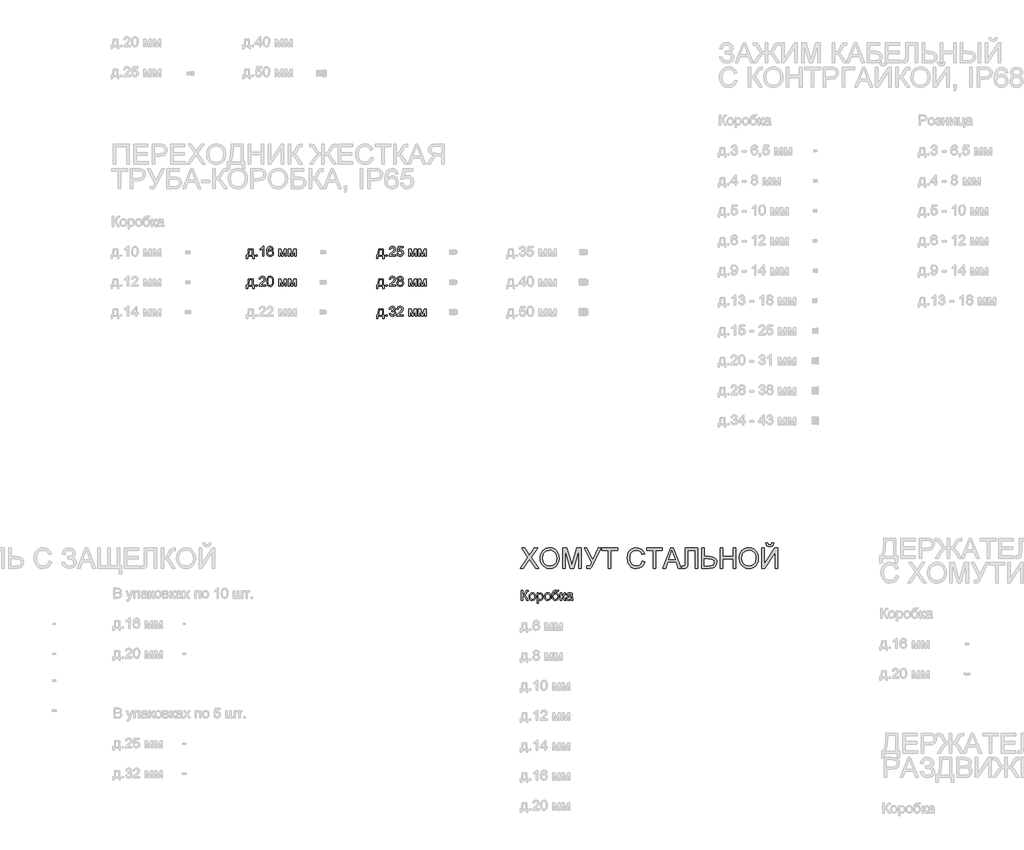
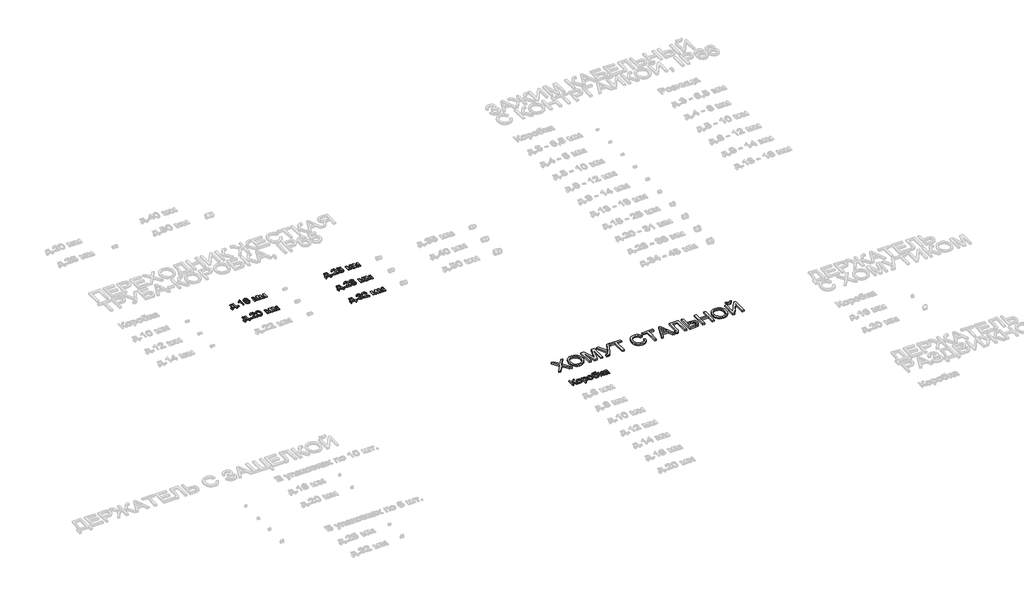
# One storey, part 55 of 98: 7 proxies.
"""IFC4 building model written with IfcOpenShell, lengths in millimetres."""

from ifc_helpers import new_model, si_unit, origin, origin_with_axes, place, context, project, spatial, polyline, outline, extrude, element, save

model = new_model("IFC4")

# Units and contexts
model_context = context("Model", 3, world=origin())
ifc_project = project(units=[si_unit("LENGTHUNIT", "METRE", prefix="MILLI")], contexts=[model_context])

# Site, building, storey
site = spatial("IfcSite", under=ifc_project)
building = spatial("IfcBuilding", under=site)
storey = spatial("IfcBuildingStorey", under=building, Name="Этаж 01", Elevation=0.0)

# Proxies
placement = place(None, origin())
element("IfcBuildingElementProxy", 1, Name="100", ObjectType="100", at=placement, inside=storey, context=model_context, shape_type="SweptSolid", body=[
    extrude(outline(polyline([(9711.8671726, -28463.7647458), (9758.956068, -28463.7647458), (9758.956068, -28524.9803098), (9768.3738471, -28524.9803098), (9768.3738471, -28557.9425366), (9755.8168083, -28557.9425366), (9755.8168083, -28537.5373486), (9704.0190234, -28537.5373486), (9704.0190234, -28557.9425366), (9691.4619846, -28557.9425366), (9691.4619846, -28524.9803098), (9699.3101339, -28524.9803098), (9709.0099558, -28501.031192), (9711.8671726, -28463.7647458)]), holes=[polyline([(9722.8545816, -28476.3217846), (9719.9115256, -28504.9307411), (9713.4368025, -28524.9803098), (9746.3990293, -28524.9803098), (9746.3990293, -28476.3217846), (9722.8545816, -28476.3217846)])]), origin_with_axes(), (0.0, 0.0, 1.0), 10.0),
    extrude(outline(polyline([(9785.6397754, -28537.5373486), (9785.6397754, -28524.9803098), (9798.1968142, -28524.9803098), (9798.1968142, -28537.5373486), (9785.6397754, -28537.5373486)])), origin_with_axes(), (0.0, 0.0, 1.0), 10.0),
    extrude(outline(polyline([(9865.6908976, -28537.5373486), (9853.1338588, -28537.5373486), (9853.1338588, -28459.25206), (9841.2390076, -28467.7256087), (9828.0197813, -28474.0654417), (9828.0197813, -28462.195116), (9846.4261437, -28450.4474176), (9857.5974937, -28437.0810385), (9865.6908976, -28437.0810385), (9865.6908976, -28537.5373486)])), origin_with_axes(), (0.0, 0.0, 1.0), 10.0),
    extrude(outline(polyline([(9959.8686883, -28463.7647458), (9947.3116496, -28465.3343757), (9942.5537091, -28454.8620016), (9929.9721448, -28449.6380772), (9918.6413794, -28452.6792351), (9910.0697289, -28464.0958396), (9906.5012736, -28486.4753277), (9917.5745216, -28476.4566747), (9931.29652, -28473.1825249), (9942.8970656, -28475.4204737), (9952.6336758, -28482.1343201), (9959.2371576, -28492.3920964), (9961.4383182, -28505.2618349), (9957.2935144, -28522.5890769), (9945.8891725, -28534.85181), (9929.4325846, -28539.1069785), (9915.1863543, -28536.2865498), (9903.8402605, -28527.8252639), (9896.4182412, -28512.8892549), (9893.9442348, -28490.644657), (9896.691087, -28465.6348127), (9904.9316437, -28448.5344312), (9916.1827014, -28439.9443867), (9930.7569598, -28437.0810385), (9941.7750255, -28438.8530034), (9950.598062, -28444.1688982), (9956.7784796, -28452.61179), (9959.8686883, -28463.7647458)]), holes=[polyline([(9906.5012736, -28505.0656312), (9909.4075413, -28515.9426755), (9917.1330632, -28523.8398757), (9928.4515659, -28526.5499397), (9936.7381079, -28525.1458567), (9943.2526849, -28520.9336079), (9947.4741308, -28514.311732), (9948.8812794, -28505.6787678), (9947.4925249, -28497.3922259), (9943.3262613, -28491.0738526), (9936.7013197, -28487.0731359), (9927.9365311, -28485.7395637), (9912.7430047, -28491.0738526), (9908.0617064, -28497.2389417), (9906.5012736, -28505.0656312)])]), origin_with_axes(), (0.0, 0.0, 1.0), 10.0),
    extrude(outline(polyline([(10014.8057329, -28463.7647458), (10036.4126688, -28463.7647458), (10053.0654604, -28522.8220688), (10071.0181018, -28463.7647458), (10091.7175954, -28463.7647458), (10091.7175954, -28537.5373486), (10079.1605566, -28537.5373486), (10079.1605566, -28478.1366691), (10061.1098134, -28537.5373486), (10044.6287, -28537.5373486), (10027.3627717, -28475.291715), (10027.3627717, -28537.5373486), (10014.8057329, -28537.5373486), (10014.8057329, -28463.7647458)])), origin_with_axes(), (0.0, 0.0, 1.0), 10.0),
    extrude(outline(polyline([(10110.5531535, -28463.7647458), (10132.1600894, -28463.7647458), (10148.812881, -28522.8220688), (10166.7655224, -28463.7647458), (10187.465016, -28463.7647458), (10187.465016, -28537.5373486), (10174.9079772, -28537.5373486), (10174.9079772, -28478.1366691), (10156.857234, -28537.5373486), (10140.3761206, -28537.5373486), (10123.1101923, -28475.291715), (10123.1101923, -28537.5373486), (10110.5531535, -28537.5373486), (10110.5531535, -28463.7647458)])), origin_with_axes(), (0.0, 0.0, 1.0), 10.0),
])
element("IfcBuildingElementProxy", 2, Name="100", ObjectType="100", at=placement, inside=storey, context=model_context, shape_type="SweptSolid", body=[
    extrude(outline(polyline([(9711.8671726, -28763.7647458), (9758.956068, -28763.7647458), (9758.956068, -28824.9803098), (9768.3738471, -28824.9803098), (9768.3738471, -28857.9425366), (9755.8168083, -28857.9425366), (9755.8168083, -28837.5373486), (9704.0190234, -28837.5373486), (9704.0190234, -28857.9425366), (9691.4619846, -28857.9425366), (9691.4619846, -28824.9803098), (9699.3101339, -28824.9803098), (9709.0099558, -28801.031192), (9711.8671726, -28763.7647458)]), holes=[polyline([(9722.8545816, -28776.3217846), (9719.9115256, -28804.9307411), (9713.4368025, -28824.9803098), (9746.3990293, -28824.9803098), (9746.3990293, -28776.3217846), (9722.8545816, -28776.3217846)])]), origin_with_axes(), (0.0, 0.0, 1.0), 10.0),
    extrude(outline(polyline([(9785.6397754, -28837.5373486), (9785.6397754, -28824.9803098), (9798.1968142, -28824.9803098), (9798.1968142, -28837.5373486), (9785.6397754, -28837.5373486)])), origin_with_axes(), (0.0, 0.0, 1.0), 10.0),
    extrude(outline(polyline([(9882.9568259, -28824.9803098), (9882.9568259, -28837.5373486), (9817.0323723, -28837.5373486), (9818.381273, -28828.879859), (9826.008693, -28815.550268), (9841.7295169, -28800.9944038), (9863.4100292, -28780.074181), (9868.8301572, -28765.8494105), (9863.7165975, -28754.334704), (9850.3624811, -28749.6380772), (9836.4442789, -28754.2243394), (9831.1590409, -28766.9040055), (9818.6020022, -28765.3343757), (9821.6462257, -28753.1881385), (9828.2282477, -28744.316051), (9838.0047117, -28738.8897916), (9850.6322612, -28737.0810385), (9863.3517812, -28739.0921267), (9873.1098511, -28745.1253914), (9879.3178598, -28754.1385003), (9881.387196, -28765.089121), (9879.1553786, -28776.9962349), (9871.736425, -28789.308019), (9853.7469954, -28806.5126337), (9839.3014958, -28818.5914259), (9833.636113, -28824.9803098), (9882.9568259, -28824.9803098)])), origin_with_axes(), (0.0, 0.0, 1.0), 10.0),
    extrude(outline(polyline([(9895.5138646, -28788.1185339), (9899.2049473, -28759.2152718), (9910.1678308, -28742.5502175), (9928.4760914, -28737.0810385), (9943.1423203, -28740.3184), (9953.2713379, -28749.65034), (9959.1574498, -28764.5127726), (9961.4383182, -28788.1185339), (9957.7840237, -28816.8991687), (9946.8579284, -28833.6010113), (9938.6265688, -28837.7304867), (9928.4760914, -28839.1069785), (9915.4285433, -28836.7157455), (9905.5202549, -28829.5420466), (9898.0154622, -28812.5520298), (9895.5138646, -28788.1185339)]), holes=[polyline([(9908.0709034, -28788.0940085), (9909.5424314, -28807.8462059), (9913.9570153, -28819.2781389), (9920.5298403, -28824.7319895), (9928.4760914, -28826.5499397), (9936.4223425, -28824.7258581), (9942.9951675, -28819.2536135), (9947.4097514, -28807.8155491), (9948.8812794, -28788.0940085), (9947.4588024, -28768.7863351), (9943.1913712, -28757.2654973), (9936.630809, -28751.5449322), (9928.3289386, -28749.6380772), (9920.4685266, -28751.3180717), (9914.1532191, -28756.358055), (9909.5914823, -28768.5962627), (9908.0709034, -28788.0940085)])]), origin_with_axes(), (0.0, 0.0, 1.0), 10.0),
    extrude(outline(polyline([(10014.8057329, -28763.7647458), (10036.4126688, -28763.7647458), (10053.0654604, -28822.8220688), (10071.0181018, -28763.7647458), (10091.7175954, -28763.7647458), (10091.7175954, -28837.5373486), (10079.1605566, -28837.5373486), (10079.1605566, -28778.1366691), (10061.1098134, -28837.5373486), (10044.6287, -28837.5373486), (10027.3627717, -28775.291715), (10027.3627717, -28837.5373486), (10014.8057329, -28837.5373486), (10014.8057329, -28763.7647458)])), origin_with_axes(), (0.0, 0.0, 1.0), 10.0),
    extrude(outline(polyline([(10110.5531535, -28763.7647458), (10132.1600894, -28763.7647458), (10148.812881, -28822.8220688), (10166.7655224, -28763.7647458), (10187.465016, -28763.7647458), (10187.465016, -28837.5373486), (10174.9079772, -28837.5373486), (10174.9079772, -28778.1366691), (10156.857234, -28837.5373486), (10140.3761206, -28837.5373486), (10123.1101923, -28775.291715), (10123.1101923, -28837.5373486), (10110.5531535, -28837.5373486), (10110.5531535, -28763.7647458)])), origin_with_axes(), (0.0, 0.0, 1.0), 10.0),
])
element("IfcBuildingElementProxy", 3, Name="100", ObjectType="100", at=placement, inside=storey, context=model_context, shape_type="SweptSolid", body=[
    extrude(outline(polyline([(11013.3013981, -28463.7647458), (11060.3902935, -28463.7647458), (11060.3902935, -28524.9803098), (11069.8080725, -28524.9803098), (11069.8080725, -28557.9425366), (11057.2510338, -28557.9425366), (11057.2510338, -28537.5373486), (11005.4532489, -28537.5373486), (11005.4532489, -28557.9425366), (10992.8962101, -28557.9425366), (10992.8962101, -28524.9803098), (11000.7443593, -28524.9803098), (11010.4441813, -28501.031192), (11013.3013981, -28463.7647458)]), holes=[polyline([(11024.288807, -28476.3217846), (11021.345751, -28504.9307411), (11014.8710279, -28524.9803098), (11047.8332547, -28524.9803098), (11047.8332547, -28476.3217846), (11024.288807, -28476.3217846)])]), origin_with_axes(), (0.0, 0.0, 1.0), 10.0),
    extrude(outline(polyline([(11087.0740008, -28537.5373486), (11087.0740008, -28524.9803098), (11099.6310396, -28524.9803098), (11099.6310396, -28537.5373486), (11087.0740008, -28537.5373486)])), origin_with_axes(), (0.0, 0.0, 1.0), 10.0),
    extrude(outline(polyline([(11184.3910513, -28524.9803098), (11184.3910513, -28537.5373486), (11118.4665978, -28537.5373486), (11119.8154984, -28528.879859), (11127.4429185, -28515.550268), (11143.1637424, -28500.9944038), (11164.8442546, -28480.074181), (11170.2643827, -28465.8494105), (11165.150823, -28454.334704), (11151.7967065, -28449.6380772), (11137.8785044, -28454.2243394), (11132.5932664, -28466.9040055), (11120.0362276, -28465.3343757), (11123.0804511, -28453.1881385), (11129.6624732, -28444.316051), (11139.4389372, -28438.8897916), (11152.0664867, -28437.0810385), (11164.7860066, -28439.0921267), (11174.5440766, -28445.1253914), (11180.7520852, -28454.1385003), (11182.8214215, -28465.089121), (11180.589604, -28476.9962349), (11173.1706505, -28489.308019), (11155.1812209, -28506.5126337), (11140.7357212, -28518.5914259), (11135.0703385, -28524.9803098), (11184.3910513, -28524.9803098)])), origin_with_axes(), (0.0, 0.0, 1.0), 10.0),
    extrude(outline(polyline([(11196.9480901, -28510.8536412), (11209.5051288, -28509.2840114), (11215.8326992, -28522.2211949), (11228.9538237, -28526.5499397), (11237.9546698, -28525.0446892), (11244.699173, -28520.5289377), (11248.9114219, -28513.5238514), (11250.3155048, -28504.5505964), (11245.0547923, -28489.6391128), (11238.4482448, -28485.5372286), (11229.1500274, -28484.1699338), (11218.1258303, -28486.3527004), (11211.0747587, -28492.0180831), (11198.5177199, -28490.4484532), (11209.5051288, -28438.6506683), (11258.1636541, -28438.6506683), (11258.1636541, -28451.2077071), (11219.6586719, -28451.2077071), (11214.2875948, -28478.8724331), (11223.2577841, -28473.4277796), (11232.6571691, -28471.6128951), (11244.389539, -28473.8631066), (11254.1292149, -28480.6137412), (11260.6867114, -28490.9021744), (11262.8725436, -28503.7657815), (11260.9043749, -28516.3228202), (11254.9998689, -28527.0649745), (11243.6936289, -28536.0964775), (11228.9047727, -28539.1069785), (11216.5715288, -28537.1725323), (11206.7460139, -28531.3691938), (11200.0107077, -28522.3714134), (11196.9480901, -28510.8536412)])), origin_with_axes(), (0.0, 0.0, 1.0), 10.0),
    extrude(outline(polyline([(11316.2399584, -28463.7647458), (11337.8468942, -28463.7647458), (11354.4996859, -28522.8220688), (11372.4523272, -28463.7647458), (11393.1518208, -28463.7647458), (11393.1518208, -28537.5373486), (11380.5947821, -28537.5373486), (11380.5947821, -28478.1366691), (11362.5440388, -28537.5373486), (11346.0629255, -28537.5373486), (11328.7969971, -28475.291715), (11328.7969971, -28537.5373486), (11316.2399584, -28537.5373486), (11316.2399584, -28463.7647458)])), origin_with_axes(), (0.0, 0.0, 1.0), 10.0),
    extrude(outline(polyline([(11411.987379, -28463.7647458), (11433.5943148, -28463.7647458), (11450.2471065, -28522.8220688), (11468.1997479, -28463.7647458), (11488.8992414, -28463.7647458), (11488.8992414, -28537.5373486), (11476.3422027, -28537.5373486), (11476.3422027, -28478.1366691), (11458.2914594, -28537.5373486), (11441.8103461, -28537.5373486), (11424.5444178, -28475.291715), (11424.5444178, -28537.5373486), (11411.987379, -28537.5373486), (11411.987379, -28463.7647458)])), origin_with_axes(), (0.0, 0.0, 1.0), 10.0),
])
element("IfcBuildingElementProxy", 4, Name="100", ObjectType="100", at=placement, inside=storey, context=model_context, shape_type="SweptSolid", body=[
    extrude(outline(polyline([(11013.3013981, -28763.7647458), (11060.3902935, -28763.7647458), (11060.3902935, -28824.9803098), (11069.8080725, -28824.9803098), (11069.8080725, -28857.9425366), (11057.2510338, -28857.9425366), (11057.2510338, -28837.5373486), (11005.4532489, -28837.5373486), (11005.4532489, -28857.9425366), (10992.8962101, -28857.9425366), (10992.8962101, -28824.9803098), (11000.7443593, -28824.9803098), (11010.4441813, -28801.031192), (11013.3013981, -28763.7647458)]), holes=[polyline([(11024.288807, -28776.3217846), (11021.345751, -28804.9307411), (11014.8710279, -28824.9803098), (11047.8332547, -28824.9803098), (11047.8332547, -28776.3217846), (11024.288807, -28776.3217846)])]), origin_with_axes(), (0.0, 0.0, 1.0), 10.0),
    extrude(outline(polyline([(11087.0740008, -28837.5373486), (11087.0740008, -28824.9803098), (11099.6310396, -28824.9803098), (11099.6310396, -28837.5373486), (11087.0740008, -28837.5373486)])), origin_with_axes(), (0.0, 0.0, 1.0), 10.0),
    extrude(outline(polyline([(11184.3910513, -28824.9803098), (11184.3910513, -28837.5373486), (11118.4665978, -28837.5373486), (11119.8154984, -28828.879859), (11127.4429185, -28815.550268), (11143.1637424, -28800.9944038), (11164.8442546, -28780.074181), (11170.2643827, -28765.8494105), (11165.150823, -28754.334704), (11151.7967065, -28749.6380772), (11137.8785044, -28754.2243394), (11132.5932664, -28766.9040055), (11120.0362276, -28765.3343757), (11123.0804511, -28753.1881385), (11129.6624732, -28744.316051), (11139.4389372, -28738.8897916), (11152.0664867, -28737.0810385), (11164.7860066, -28739.0921267), (11174.5440766, -28745.1253914), (11180.7520852, -28754.1385003), (11182.8214215, -28765.089121), (11180.589604, -28776.9962349), (11173.1706505, -28789.308019), (11155.1812209, -28806.5126337), (11140.7357212, -28818.5914259), (11135.0703385, -28824.9803098), (11184.3910513, -28824.9803098)])), origin_with_axes(), (0.0, 0.0, 1.0), 10.0),
    extrude(outline(polyline([(11215.244088, -28782.2078965), (11203.8029579, -28774.4087982), (11200.0873498, -28762.2686924), (11202.1107007, -28752.4523745), (11208.1807537, -28744.3405765), (11217.6169268, -28738.895923), (11229.7386386, -28737.0810385), (11241.9339267, -28738.9388425), (11251.4927272, -28744.5122548), (11257.6731447, -28752.7528115), (11259.7332839, -28762.6120489), (11256.0667267, -28774.4455864), (11244.9444277, -28782.2078965), (11258.2985441, -28792.0548713), (11262.8725436, -28808.3029927), (11260.603938, -28820.3082085), (11253.7981211, -28830.2287596), (11243.2889587, -28836.8874238), (11229.9103168, -28839.1069785), (11216.5316749, -28836.8782267), (11206.0225126, -28830.1919714), (11199.2166957, -28820.1763841), (11196.9480901, -28807.9596362), (11201.7060305, -28791.33137), (11215.244088, -28782.2078965)]), holes=[polyline([(11209.5051288, -28807.5181778), (11211.6020562, -28816.9727451), (11219.0210098, -28824.0483421), (11230.0084187, -28826.5499397), (11238.5555437, -28825.2347616), (11244.9689532, -28821.2892272), (11250.3155048, -28807.9105853), (11244.7972749, -28794.274426), (11238.2367127, -28790.227724), (11229.5914858, -28788.8788234), (11221.1639224, -28790.2093299), (11214.8148923, -28794.2008496), (11209.5051288, -28807.5181778)]), polyline([(11212.6443885, -28762.6365744), (11217.0957607, -28772.4958119), (11230.0574696, -28776.3217846), (11242.7616612, -28772.5203373), (11247.1762451, -28763.2006601), (11242.6145084, -28753.5498891), (11229.9103168, -28749.6380772), (11217.1693371, -28753.46405), (11212.6443885, -28762.6365744)])]), origin_with_axes(), (0.0, 0.0, 1.0), 10.0),
    extrude(outline(polyline([(11316.2399584, -28763.7647458), (11337.8468942, -28763.7647458), (11354.4996859, -28822.8220688), (11372.4523272, -28763.7647458), (11393.1518208, -28763.7647458), (11393.1518208, -28837.5373486), (11380.5947821, -28837.5373486), (11380.5947821, -28778.1366691), (11362.5440388, -28837.5373486), (11346.0629255, -28837.5373486), (11328.7969971, -28775.291715), (11328.7969971, -28837.5373486), (11316.2399584, -28837.5373486), (11316.2399584, -28763.7647458)])), origin_with_axes(), (0.0, 0.0, 1.0), 10.0),
    extrude(outline(polyline([(11411.987379, -28763.7647458), (11433.5943148, -28763.7647458), (11450.2471065, -28822.8220688), (11468.1997479, -28763.7647458), (11488.8992414, -28763.7647458), (11488.8992414, -28837.5373486), (11476.3422027, -28837.5373486), (11476.3422027, -28778.1366691), (11458.2914594, -28837.5373486), (11441.8103461, -28837.5373486), (11424.5444178, -28775.291715), (11424.5444178, -28837.5373486), (11411.987379, -28837.5373486), (11411.987379, -28763.7647458)])), origin_with_axes(), (0.0, 0.0, 1.0), 10.0),
])
element("IfcBuildingElementProxy", 5, Name="100", ObjectType="100", at=placement, inside=storey, context=model_context, shape_type="SweptSolid", body=[
    extrude(outline(polyline([(11013.3013981, -29063.7647458), (11060.3902935, -29063.7647458), (11060.3902935, -29124.9803098), (11069.8080725, -29124.9803098), (11069.8080725, -29157.9425366), (11057.2510338, -29157.9425366), (11057.2510338, -29137.5373486), (11005.4532489, -29137.5373486), (11005.4532489, -29157.9425366), (10992.8962101, -29157.9425366), (10992.8962101, -29124.9803098), (11000.7443593, -29124.9803098), (11010.4441813, -29101.031192), (11013.3013981, -29063.7647458)]), holes=[polyline([(11024.288807, -29076.3217846), (11021.345751, -29104.9307411), (11014.8710279, -29124.9803098), (11047.8332547, -29124.9803098), (11047.8332547, -29076.3217846), (11024.288807, -29076.3217846)])]), origin_with_axes(), (0.0, 0.0, 1.0), 10.0),
    extrude(outline(polyline([(11087.0740008, -29137.5373486), (11087.0740008, -29124.9803098), (11099.6310396, -29124.9803098), (11099.6310396, -29137.5373486), (11087.0740008, -29137.5373486)])), origin_with_axes(), (0.0, 0.0, 1.0), 10.0),
    extrude(outline(polyline([(11120.0362276, -29110.8536412), (11132.5932664, -29109.2840114), (11139.5217106, -29122.5032377), (11152.4834196, -29126.5499397), (11161.0918583, -29125.1581195), (11167.7382597, -29120.9826588), (11173.4036424, -29107.1993467), (11167.7873106, -29094.2131123), (11153.5134892, -29089.0750271), (11144.7088468, -29090.4484532), (11146.1067983, -29077.8914145), (11148.1178866, -29078.0385673), (11162.3671825, -29074.4333237), (11167.1128603, -29069.8593242), (11168.6947528, -29063.3478129), (11164.1084906, -29053.5253636), (11152.2872159, -29049.6380772), (11140.3187883, -29053.5621518), (11134.1628962, -29065.3343757), (11121.6058575, -29063.7647458), (11125.3030715, -29052.4891627), (11131.8820279, -29044.0707964), (11140.882874, -29038.8284779), (11151.8457575, -29037.0810385), (11166.9902329, -29040.5268665), (11177.5852344, -29049.9446456), (11181.2517916, -29062.6120489), (11177.7691754, -29074.188069), (11167.4684795, -29082.5022021), (11181.1536897, -29091.0861154), (11185.9606812, -29107.4200759), (11183.5571854, -29119.6582836), (11176.3466983, -29129.8854031), (11165.4635227, -29136.8015846), (11152.0419612, -29139.1069785), (11139.9018554, -29137.1388098), (11130.0180924, -29131.2343038), (11123.1448305, -29122.2028008), (11120.0362276, -29110.8536412)])), origin_with_axes(), (0.0, 0.0, 1.0), 10.0),
    extrude(outline(polyline([(11261.3029138, -29124.9803098), (11261.3029138, -29137.5373486), (11195.3784602, -29137.5373486), (11196.7273609, -29128.879859), (11204.3547809, -29115.550268), (11220.0756048, -29100.9944038), (11241.7561171, -29080.074181), (11247.1762451, -29065.8494105), (11242.0626854, -29054.334704), (11228.708569, -29049.6380772), (11214.7903668, -29054.2243394), (11209.5051288, -29066.9040055), (11196.9480901, -29065.3343757), (11199.9923136, -29053.1881385), (11206.5743356, -29044.316051), (11216.3507996, -29038.8897916), (11228.9783491, -29037.0810385), (11241.6978691, -29039.0921267), (11251.455939, -29045.1253914), (11257.6639477, -29054.1385003), (11259.7332839, -29065.089121), (11257.5014665, -29076.9962349), (11250.0825129, -29089.308019), (11232.0930833, -29106.5126337), (11217.6475837, -29118.5914259), (11211.9822009, -29124.9803098), (11261.3029138, -29124.9803098)])), origin_with_axes(), (0.0, 0.0, 1.0), 10.0),
    extrude(outline(polyline([(11316.2399584, -29063.7647458), (11337.8468942, -29063.7647458), (11354.4996859, -29122.8220688), (11372.4523272, -29063.7647458), (11393.1518208, -29063.7647458), (11393.1518208, -29137.5373486), (11380.5947821, -29137.5373486), (11380.5947821, -29078.1366691), (11362.5440388, -29137.5373486), (11346.0629255, -29137.5373486), (11328.7969971, -29075.291715), (11328.7969971, -29137.5373486), (11316.2399584, -29137.5373486), (11316.2399584, -29063.7647458)])), origin_with_axes(), (0.0, 0.0, 1.0), 10.0),
    extrude(outline(polyline([(11411.987379, -29063.7647458), (11433.5943148, -29063.7647458), (11450.2471065, -29122.8220688), (11468.1997479, -29063.7647458), (11488.8992414, -29063.7647458), (11488.8992414, -29137.5373486), (11476.3422027, -29137.5373486), (11476.3422027, -29078.1366691), (11458.2914594, -29137.5373486), (11441.8103461, -29137.5373486), (11424.5444178, -29075.291715), (11424.5444178, -29137.5373486), (11411.987379, -29137.5373486), (11411.987379, -29063.7647458)])), origin_with_axes(), (0.0, 0.0, 1.0), 10.0),
])
element("IfcBuildingElementProxy", 6, Name="100", ObjectType="100", at=placement, inside=storey, context=model_context, shape_type="SweptSolid", body=[
    extrude(outline(polyline([(12441.6215896, -31881.0306742), (12454.1786284, -31881.0306742), (12454.1786284, -31924.9803098), (12468.2194579, -31921.6571092), (12478.0173817, -31904.844902), (12484.9458259, -31890.8040725), (12492.7939751, -31883.8511028), (12504.014376, -31881.0306742), (12512.2549327, -31881.177827), (12512.2549327, -31893.7348657), (12509.483555, -31893.6612893), (12506.7121773, -31893.5877129), (12496.9019907, -31896.6043453), (12489.446249, -31909.529266), (12480.5557674, -31925.2746154), (12471.8860151, -31930.4740143), (12481.5797057, -31936.1516598), (12491.1385062, -31947.9851973), (12512.2549327, -31981.4869843), (12497.6868057, -31981.4869843), (12479.8322662, -31953.1845961), (12467.2629647, -31938.4080027), (12454.1786284, -31934.3980889), (12454.1786284, -31981.4869843), (12441.6215896, -31981.4869843), (12441.6215896, -31881.0306742)])), origin_with_axes(), (0.0, 0.0, 1.0), 10.0),
    extrude(outline(polyline([(12518.5334521, -31944.6006829), (12521.2496475, -31926.8135885), (12529.3982337, -31914.311732), (12539.4659376, -31908.1864968), (12551.5202043, -31906.1447517), (12564.7118395, -31908.6310208), (12575.248593, -31916.0898283), (12582.1555774, -31927.9325629), (12584.4579056, -31943.5706133), (12580.3866782, -31965.9133132), (12568.5286152, -31978.5561911), (12551.5202043, -31983.0566141), (12538.1691536, -31980.579542), (12527.6446628, -31973.1483257), (12520.8112548, -31961.0572708), (12518.5334521, -31944.6006829)]), holes=[polyline([(12531.0904908, -31944.5761575), (12532.5436247, -31955.9406454), (12536.9030264, -31964.037115), (12543.4635886, -31968.8839603), (12551.5202043, -31970.4995754), (12559.5400318, -31968.8747632), (12566.0883313, -31964.0003268), (12570.447733, -31955.7965583), (12571.9008668, -31944.18375), (12570.4385359, -31933.1503558), (12566.0515431, -31925.1642508), (12559.4940465, -31920.3174056), (12551.5202043, -31918.7017905), (12543.4635886, -31920.3112742), (12536.9030264, -31925.1397254), (12532.5436247, -31933.2178009), (12531.0904908, -31944.5761575)])]), origin_with_axes(), (0.0, 0.0, 1.0), 10.0),
    extrude(outline(polyline([(12598.5845742, -32009.7403215), (12598.5845742, -31907.7143815), (12611.141613, -31907.7143815), (12611.141613, -31920.0261656), (12619.8236281, -31909.6151052), (12631.546801, -31906.1447517), (12647.4638286, -31911.000794), (12657.8626264, -31924.6860042), (12661.3697681, -31944.0365972), (12657.4089052, -31964.3804715), (12645.9064615, -31978.23736), (12630.0262221, -31983.0566141), (12619.1001268, -31979.8315153), (12611.141613, -31971.6767978), (12611.141613, -32009.7403215), (12598.5845742, -32009.7403215)]), holes=[polyline([(12611.141613, -31945.1892941), (12612.4997107, -31956.4464832), (12616.5740038, -31964.3191579), (12622.5858087, -31968.954471), (12629.7564419, -31970.4995754), (12637.0435711, -31968.8992887), (12643.2086602, -31964.0984287), (12647.411712, -31955.9375797), (12648.8127293, -31944.2573264), (12647.4454345, -31933.061451), (12643.3435503, -31925.0784117), (12637.3409424, -31920.2959458), (12630.2714767, -31918.7017905), (12623.1744199, -31920.3971133), (12616.9418858, -31925.4830819), (12612.5916812, -31933.8002807), (12611.141613, -31945.1892941)])]), origin_with_axes(), (0.0, 0.0, 1.0), 10.0),
    extrude(outline(polyline([(12672.357177, -31944.6006829), (12675.0733724, -31926.8135885), (12683.2219586, -31914.311732), (12693.2896625, -31908.1864968), (12705.3439292, -31906.1447517), (12718.5355644, -31908.6310208), (12729.0723179, -31916.0898283), (12735.9793024, -31927.9325629), (12738.2816305, -31943.5706133), (12734.2104031, -31965.9133132), (12722.3523401, -31978.5561911), (12705.3439292, -31983.0566141), (12691.9928785, -31980.579542), (12681.4683877, -31973.1483257), (12674.6349797, -31961.0572708), (12672.357177, -31944.6006829)]), holes=[polyline([(12684.9142158, -31944.5761575), (12686.3673496, -31955.9406454), (12690.7267513, -31964.037115), (12697.2873135, -31968.8839603), (12705.3439292, -31970.4995754), (12713.3637567, -31968.8747632), (12719.9120562, -31964.0003268), (12724.2714579, -31955.7965583), (12725.7245917, -31944.18375), (12724.2622608, -31933.1503558), (12719.875268, -31925.1642508), (12713.3177715, -31920.3174056), (12705.3439292, -31918.7017905), (12697.2873135, -31920.3112742), (12690.7267513, -31925.1397254), (12686.3673496, -31933.2178009), (12684.9142158, -31944.5761575)])]), origin_with_axes(), (0.0, 0.0, 1.0), 10.0),
    extrude(outline(polyline([(12804.2060841, -31879.4610443), (12815.193493, -31879.4610443), (12811.9561314, -31889.2589681), (12805.5549847, -31892.802898), (12790.1775173, -31893.5877129), (12769.465761, -31896.481718), (12761.5195099, -31905.7523442), (12758.8339713, -31922.1598812), (12769.7110156, -31910.1424027), (12783.7273197, -31906.1447517), (12796.7932619, -31908.6862031), (12807.3943947, -31916.3105575), (12814.4209408, -31928.269788), (12816.7631228, -31943.815868), (12812.115547, -31965.4228038), (12801.0913498, -31978.4580892), (12783.7273197, -31983.0566141), (12772.3934885, -31981.5758891), (12763.8984801, -31977.133714), (12753.0459613, -31961.9769758), (12749.2690394, -31929.8118267), (12751.6510754, -31905.7186217), (12758.7971831, -31891.0248017), (12770.8851723, -31883.529206), (12788.0928527, -31881.0306742), (12802.0723685, -31880.7486313), (12804.2060841, -31879.4610443)]), holes=[polyline([(12804.2060841, -31943.4234605), (12802.8449207, -31933.5427633), (12798.7614305, -31925.6302347), (12792.2008683, -31920.4339015), (12783.4084886, -31918.7017905), (12774.2420955, -31920.5320034), (12767.44241, -31926.0226422), (12763.2301612, -31934.5728329), (12761.8260782, -31945.5817016), (12763.377314, -31956.2533451), (12768.0310212, -31964.0861659), (12774.9594654, -31968.896223), (12783.3349122, -31970.4995754), (12791.7532785, -31968.644837), (12798.418074, -31963.0806218), (12802.7590815, -31954.4568547), (12804.2060841, -31943.4234605)])]), origin_with_axes(), (0.0, 0.0, 1.0), 10.0),
    extrude(outline(polyline([(12832.4594213, -31907.7143815), (12845.0164601, -31907.7143815), (12845.0164601, -31939.1069785), (12853.428695, -31936.8506356), (12860.3203511, -31923.7049856), (12866.0470474, -31912.3619574), (12871.0992935, -31908.6708747), (12880.2840807, -31907.7143815), (12882.6875764, -31907.7143815), (12882.6875764, -31920.3449967), (12879.303062, -31920.2714203), (12873.1716954, -31921.5957955), (12868.8552133, -31929.8608776), (12863.7907045, -31938.8004101), (12856.690582, -31943.1782059), (12864.6123077, -31948.064905), (12872.3868805, -31958.3594695), (12885.8268361, -31981.4869843), (12871.5530146, -31981.4869843), (12858.3828392, -31958.8499789), (12851.7609633, -31949.2727843), (12845.0164601, -31946.9551277), (12845.0164601, -31981.4869843), (12832.4594213, -31981.4869843), (12832.4594213, -31907.7143815)])), origin_with_axes(), (0.0, 0.0, 1.0), 10.0),
    extrude(outline(polyline([(12940.7638807, -31972.0692052), (12928.5869866, -31980.579542), (12915.1347683, -31983.0566141), (12904.6409344, -31981.5666921), (12896.9000841, -31977.0969258), (12892.1268152, -31970.309503), (12890.5357256, -31961.8666112), (12892.9392213, -31951.9337974), (12899.2545289, -31944.7233103), (12908.0469086, -31940.6030319), (12918.9116902, -31938.714571), (12940.6903043, -31934.3980889), (12940.7638807, -31931.6021858), (12937.3057899, -31922.3315595), (12923.424376, -31918.7017905), (12910.7201844, -31921.1175489), (12904.6623942, -31929.6891994), (12892.1053554, -31928.1195695), (12897.5377462, -31915.8568364), (12908.4761042, -31908.6708747), (12925.0430567, -31906.1447517), (12940.2611086, -31908.3765691), (12948.8572846, -31913.9806382), (12952.7077828, -31922.5032377), (12953.3209194, -31933.4906467), (12953.3209194, -31949.1133687), (12953.9585816, -31970.928771), (12956.4601791, -31981.4869843), (12943.9031404, -31981.4869843), (12940.7638807, -31972.0692052)]), holes=[polyline([(12940.7638807, -31946.9551277), (12920.5058455, -31950.8056259), (12909.7023775, -31952.8412396), (12904.809547, -31956.1521776), (12903.0927644, -31960.9836944), (12906.832898, -31967.7772486), (12917.8080442, -31970.4995754), (12930.5122357, -31967.4952058), (12938.7037415, -31960.223405), (12940.6903043, -31950.5113203), (12940.7638807, -31946.9551277)])]), origin_with_axes(), (0.0, 0.0, 1.0), 10.0),
])
element("IfcBuildingElementProxy", 7, Name="200", ObjectType="200", at=placement, inside=storey, context=model_context, shape_type="SweptSolid", body=[
    extrude(outline(polyline([(12430.6341807, -31659.5121665), (12508.0856034, -31550.0304847), (12443.1912195, -31458.5995462), (12473.3084921, -31458.5995462), (12509.851437, -31510.0539746), (12522.1632211, -31530.115806), (12536.5841953, -31509.710618), (12572.7347327, -31458.5995462), (12603.2934638, -31458.5995462), (12538.3990798, -31550.3247903), (12615.8505025, -31659.5121665), (12585.7332299, -31659.5121665), (12534.1316487, -31586.7205823), (12523.3894944, -31571.6128951), (12511.5682196, -31588.1921103), (12461.1929118, -31659.5121665), (12430.6341807, -31659.5121665)])), origin_with_axes(), (0.0, 0.0, 1.0), 20.0),
    extrude(outline(polyline([(12628.4075413, -31561.7046067), (12630.0814044, -31538.1386992), (12635.1029936, -31517.2767244), (12643.472309, -31499.1186822), (12655.1893505, -31483.6645728), (12669.5520768, -31471.3251975), (12685.8584462, -31462.511358), (12704.1084588, -31457.2230544), (12724.3021147, -31455.4602865), (12750.6547283, -31458.7712244), (12774.2850151, -31468.7040383), (12793.9053882, -31484.5597523), (12808.2282605, -31505.6393906), (12816.983852, -31530.9251464), (12819.9023825, -31559.3992128), (12816.8305679, -31588.253424), (12807.6151239, -31613.8947991), (12792.764954, -31635.0112256), (12772.7889617, -31650.2905911), (12749.3610099, -31659.5612174), (12724.1549619, -31662.6514262), (12697.3976781, -31659.236255), (12673.6325012, -31648.9907414), (12654.0611791, -31632.8407218), (12639.8854595, -31611.7120326), (12631.2770209, -31587.401164), (12628.4075413, -31561.7046067)]), holes=[polyline([(12653.5216188, -31561.9498613), (12658.5432081, -31593.3792465), (12673.6079758, -31617.3283643), (12696.2511126, -31632.4851025), (12724.0078091, -31637.5373486), (12752.1691758, -31632.4360516), (12774.8491008, -31617.1321606), (12783.5725026, -31605.8596431), (12789.8035039, -31592.4472787), (12794.788305, -31559.2030091), (12792.6545894, -31536.9706739), (12786.2534427, -31517.754971), (12775.7504117, -31502.0402784), (12761.3110434, -31490.3109741), (12743.8918309, -31483.0085165), (12724.4492675, -31480.574364), (12697.4344663, -31485.2648594), (12674.4663671, -31499.3363458), (12665.3030397, -31510.2854336), (12658.7578059, -31524.3707155), (12653.5216188, -31561.9498613)])]), origin_with_axes(), (0.0, 0.0, 1.0), 20.0),
    extrude(outline(polyline([(12854.4342391, -31659.5121665), (12854.4342391, -31458.5995462), (12897.6481108, -31458.5995462), (12938.7527924, -31600.2095888), (12947.0424, -31629.7873012), (12956.0187207, -31597.7570422), (12996.4366893, -31458.5995462), (13039.650561, -31458.5995462), (13039.650561, -31659.5121665), (13014.5364834, -31659.5121665), (13014.5364834, -31483.7136237), (12964.0630737, -31659.5121665), (12930.0217264, -31659.5121665), (12879.5483167, -31483.7136237), (12879.5483167, -31659.5121665), (12854.4342391, -31659.5121665)])), origin_with_axes(), (0.0, 0.0, 1.0), 20.0),
    extrude(outline(polyline([(13069.473528, -31458.5995462), (13097.2854069, -31458.5995462), (13157.3727994, -31577.5971089), (13211.4269272, -31458.5995462), (13238.9935514, -31458.5995462), (13162.7193511, -31615.1210724), (13141.9708066, -31653.5770036), (13132.1238318, -31660.3828205), (13118.7697154, -31662.6514262), (13096.1572354, -31659.5121665), (13096.1572354, -31637.5373486), (13115.9247613, -31637.5373486), (13130.5909902, -31631.9455423), (13144.1780985, -31606.4881082), (13069.473528, -31458.5995462)])), origin_with_axes(), (0.0, 0.0, 1.0), 20.0),
    extrude(outline(polyline([(13312.7661542, -31659.5121665), (13312.7661542, -31483.7136237), (13246.8417007, -31483.7136237), (13246.8417007, -31458.5995462), (13403.8046853, -31458.5995462), (13403.8046853, -31483.7136237), (13337.8802317, -31483.7136237), (13337.8802317, -31659.5121665), (13312.7661542, -31659.5121665)])), origin_with_axes(), (0.0, 0.0, 1.0), 20.0),
    extrude(outline(polyline([(13651.8062009, -31588.0940085), (13676.9202785, -31594.5687316), (13665.3319956, -31623.8337443), (13647.1463623, -31645.2138196), (13623.2585581, -31658.2920245), (13594.5637625, -31662.6514262), (13565.4336398, -31659.3527509), (13542.2999937, -31649.4567253), (13524.5680815, -31633.3067057), (13511.6431608, -31611.2460487), (13503.752092, -31585.310368), (13501.1217357, -31557.5352774), (13504.0954485, -31528.2396078), (13513.0165869, -31502.9415893), (13527.419167, -31482.4444308), (13546.837205, -31467.5513414), (13569.8666179, -31458.4830502), (13595.1033228, -31455.4602865), (13622.6392901, -31459.3720983), (13645.4050542, -31471.107534), (13662.6893766, -31489.9430921), (13673.7810188, -31515.1552716), (13648.6669412, -31521.1394853), (13639.9604007, -31502.8250933), (13628.0655495, -31490.2619232), (13612.8352349, -31482.9962538), (13594.1223041, -31480.574364), (13572.5521564, -31483.2599026), (13554.832507, -31491.3165183), (13541.3864201, -31503.8980825), (13532.63696, -31520.1584667), (13527.8360999, -31538.5403037), (13526.2358133, -31557.4862265), (13528.1304055, -31580.6873176), (13533.8141824, -31600.7491491), (13543.5017416, -31616.9053001), (13557.407681, -31628.3893497), (13574.0788667, -31635.2503489), (13592.0621649, -31637.5373486), (13613.0253073, -31634.4226144), (13630.4935707, -31625.0784117), (13643.6821402, -31609.6028424), (13651.8062009, -31588.0940085)])), origin_with_axes(), (0.0, 0.0, 1.0), 20.0),
    extrude(outline(polyline([(13761.6802902, -31659.5121665), (13761.6802902, -31483.7136237), (13695.7558366, -31483.7136237), (13695.7558366, -31458.5995462), (13852.7188212, -31458.5995462), (13852.7188212, -31483.7136237), (13786.7943677, -31483.7136237), (13786.7943677, -31659.5121665), (13761.6802902, -31659.5121665)])), origin_with_axes(), (0.0, 0.0, 1.0), 20.0),
    extrude(outline(polyline([(13857.5748636, -31659.5121665), (13937.7731385, -31458.5995462), (13959.1593452, -31458.5995462), (14039.3576201, -31659.5121665), (14012.8210655, -31659.5121665), (13989.8161781, -31596.7269726), (13907.0672547, -31596.7269726), (13884.1114182, -31659.5121665), (13857.5748636, -31659.5121665)]), holes=[polyline([(13916.28883, -31571.6128951), (13980.6436537, -31571.6128951), (13962.5438595, -31522.2186059), (13948.4662419, -31483.7136237), (13935.958254, -31517.9021238), (13916.28883, -31571.6128951)])]), origin_with_axes(), (0.0, 0.0, 1.0), 20.0),
    extrude(outline(polyline([(14081.8847788, -31458.5995462), (14204.3159068, -31458.5995462), (14204.3159068, -31659.5121665), (14179.2018292, -31659.5121665), (14179.2018292, -31483.7136237), (14106.9988563, -31483.7136237), (14106.9988563, -31586.230073), (14104.0803258, -31631.9700678), (14099.5615086, -31644.8949885), (14091.8421181, -31654.5825477), (14081.2716421, -31660.6342065), (14068.1995685, -31662.6514262), (14047.3529222, -31659.5121665), (14050.4921818, -31634.3980889), (14062.5096604, -31637.5373486), (14071.0016031, -31635.8512228), (14077.0532619, -31630.7928454), (14080.6768996, -31619.480474), (14081.8847788, -31599.0323665), (14081.8847788, -31458.5995462)])), origin_with_axes(), (0.0, 0.0, 1.0), 20.0),
    extrude(outline(polyline([(14248.2655425, -31458.5995462), (14273.37962, -31458.5995462), (14273.37962, -31543.3595578), (14320.4194644, -31543.3595578), (14348.8015604, -31545.3277265), (14368.1214965, -31551.2322325), (14380.8256881, -31560.5273843), (14389.3605503, -31572.6674901), (14394.1981986, -31586.4324081), (14395.810748, -31600.6019963), (14391.9357243, -31622.6503905), (14380.3106533, -31641.8047798), (14370.8928742, -31649.5517614), (14358.1396317, -31655.0853198), (14322.6267564, -31659.5121665), (14248.2655425, -31659.5121665), (14248.2655425, -31458.5995462)]), holes=[polyline([(14273.37962, -31634.3980889), (14322.5777055, -31634.3980889), (14347.323901, -31631.9148855), (14361.6222479, -31624.4652751), (14368.4280648, -31613.508523), (14370.6966704, -31600.5038944), (14369.0534642, -31589.9702066), (14364.1238455, -31581.128776), (14356.4535059, -31574.5498197), (14346.588137, -31570.8035547), (14309.4320555, -31568.4736354), (14273.37962, -31568.4736354), (14273.37962, -31634.3980889)])]), origin_with_axes(), (0.0, 0.0, 1.0), 20.0),
    extrude(outline(polyline([(14430.3426046, -31659.5121665), (14430.3426046, -31458.5995462), (14455.4566821, -31458.5995462), (14455.4566821, -31540.2202982), (14562.1915117, -31540.2202982), (14562.1915117, -31458.5995462), (14587.3055892, -31458.5995462), (14587.3055892, -31659.5121665), (14562.1915117, -31659.5121665), (14562.1915117, -31565.3343757), (14455.4566821, -31565.3343757), (14455.4566821, -31659.5121665), (14430.3426046, -31659.5121665)])), origin_with_axes(), (0.0, 0.0, 1.0), 20.0),
    extrude(outline(polyline([(14621.8374458, -31561.7046067), (14623.5113089, -31538.1386992), (14628.5328981, -31517.2767244), (14636.9022135, -31499.1186822), (14648.6192551, -31483.6645728), (14662.9819813, -31471.3251975), (14679.2883507, -31462.511358), (14697.5383634, -31457.2230544), (14717.7320192, -31455.4602865), (14744.0846328, -31458.7712244), (14767.7149196, -31468.7040383), (14787.3352927, -31484.5597523), (14801.6581651, -31505.6393906), (14810.4137566, -31530.9251464), (14813.332287, -31559.3992128), (14810.2604724, -31588.253424), (14801.0450284, -31613.8947991), (14786.1948585, -31635.0112256), (14766.2188662, -31650.2905911), (14742.7909145, -31659.5612174), (14717.5848664, -31662.6514262), (14690.8275827, -31659.236255), (14667.0624058, -31648.9907414), (14647.4910836, -31632.8407218), (14633.3153641, -31611.7120326), (14624.7069254, -31587.401164), (14621.8374458, -31561.7046067)]), holes=[polyline([(14646.9515234, -31561.9498613), (14651.9731126, -31593.3792465), (14667.0378803, -31617.3283643), (14689.6810171, -31632.4851025), (14717.4377136, -31637.5373486), (14745.5990804, -31632.4360516), (14768.2790054, -31617.1321606), (14777.0024072, -31605.8596431), (14783.2334085, -31592.4472787), (14788.2182095, -31559.2030091), (14786.0844939, -31536.9706739), (14779.6833472, -31517.754971), (14769.1803163, -31502.0402784), (14754.7409479, -31490.3109741), (14737.3217355, -31483.0085165), (14717.879172, -31480.574364), (14690.8643709, -31485.2648594), (14667.8962716, -31499.3363458), (14658.7329443, -31510.2854336), (14652.1877104, -31524.3707155), (14646.9515234, -31561.9498613)])]), origin_with_axes(), (0.0, 0.0, 1.0), 20.0),
    extrude(outline(polyline([(14847.8641437, -31458.5995462), (14872.9782212, -31458.5995462), (14872.9782212, -31617.7207718), (14978.1434209, -31458.5995462), (15004.8271283, -31458.5995462), (15004.8271283, -31659.5121665), (14979.7130507, -31659.5121665), (14979.7130507, -31500.8323992), (14874.7931057, -31659.5121665), (14847.8641437, -31659.5121665), (14847.8641437, -31458.5995462)])), origin_with_axes(), (0.0, 0.0, 1.0), 20.0),
    extrude(outline(polyline([(14948.3204538, -31408.3713911), (14967.156012, -31408.3713911), (14963.1031786, -31424.4539656), (14954.9668552, -31436.3058973), (14943.1149236, -31443.6083549), (14927.9152658, -31446.0425074), (14911.4218897, -31443.626749), (14898.631859, -31436.3794737), (14889.8885302, -31424.5459361), (14885.53526, -31408.3713911), (14904.3708181, -31408.3713911), (14911.4341524, -31422.5225852), (14925.6589229, -31427.2069492), (14941.2571195, -31422.669738), (14948.3204538, -31408.3713911)])), origin_with_axes(), (0.0, 0.0, 1.0), 20.0),
])

save(model, "model.ifc")
